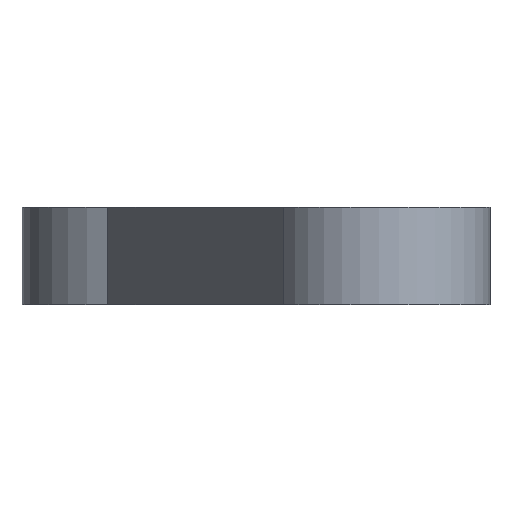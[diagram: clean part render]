
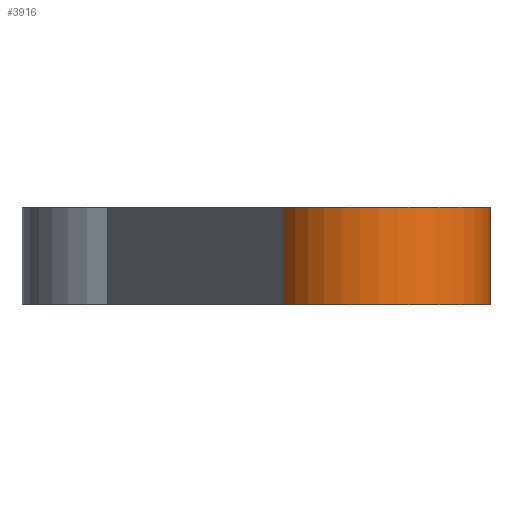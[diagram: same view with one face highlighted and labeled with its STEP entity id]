
A CAD part, left-side view. The second image highlights one B-rep face of the part: STEP entity #3916.
In plain terms, the highlighted cylindrical face has radius 51 mm (diameter 102 mm), a partial arc.
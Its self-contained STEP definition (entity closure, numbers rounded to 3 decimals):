
#23=CARTESIAN_POINT('',(-175.,-100.,-22.5));
#24=DIRECTION('',(0.,0.,1.));
#25=DIRECTION('',(-0.5,0.866,0.));
#26=AXIS2_PLACEMENT_3D('',#23,#24,#25);
#110=DIRECTION('',(0.,0.,1.));
#111=VECTOR('',#110,45.);
#112=CARTESIAN_POINT('',(-166.144,-150.225,-22.5));
#113=LINE('',#112,#111);
#169=CARTESIAN_POINT('',(-175.,-100.,22.5));
#170=DIRECTION('',(0.,0.,1.));
#171=DIRECTION('',(-0.5,0.866,0.));
#172=AXIS2_PLACEMENT_3D('',#169,#170,#171);
#949=DIRECTION('',(0.,0.,1.));
#950=VECTOR('',#949,45.);
#951=CARTESIAN_POINT('',(-200.5,-55.833,-22.5));
#952=LINE('',#951,#950);
#2391=CARTESIAN_POINT('',(-200.5,-55.833,-22.5));
#2393=VERTEX_POINT('',#2391);
#2394=CARTESIAN_POINT('',(-166.144,-150.225,-22.5));
#2395=VERTEX_POINT('',#2394);
#2397=CARTESIAN_POINT('',(-200.5,-55.833,22.5));
#2399=VERTEX_POINT('',#2397);
#2400=CARTESIAN_POINT('',(-166.144,-150.225,22.5));
#2401=VERTEX_POINT('',#2400);
#3905=CARTESIAN_POINT('',(-175.,-100.,-22.5));
#3906=DIRECTION('',(0.,0.,1.));
#3907=DIRECTION('',(1.,0.,0.));
#3908=AXIS2_PLACEMENT_3D('',#3905,#3906,#3907);
#3909=CYLINDRICAL_SURFACE('',#3908,51.);
#3910=ORIENTED_EDGE('',*,*,#3175,.F.);
#3911=ORIENTED_EDGE('',*,*,#3900,.T.);
#3912=ORIENTED_EDGE('',*,*,#3288,.T.);
#3913=ORIENTED_EDGE('',*,*,#3254,.F.);
#3914=EDGE_LOOP('',(#3910,#3911,#3912,#3913));
#3915=FACE_OUTER_BOUND('',#3914,.F.);
#3916=ADVANCED_FACE('',(#3915),#3909,.T.);
#27=CIRCLE('',#26,51.);
#173=CIRCLE('',#172,51.);
#3175=EDGE_CURVE('',#2393,#2395,#27,.T.);
#3254=EDGE_CURVE('',#2395,#2401,#113,.T.);
#3288=EDGE_CURVE('',#2399,#2401,#173,.T.);
#3900=EDGE_CURVE('',#2393,#2399,#952,.T.);
